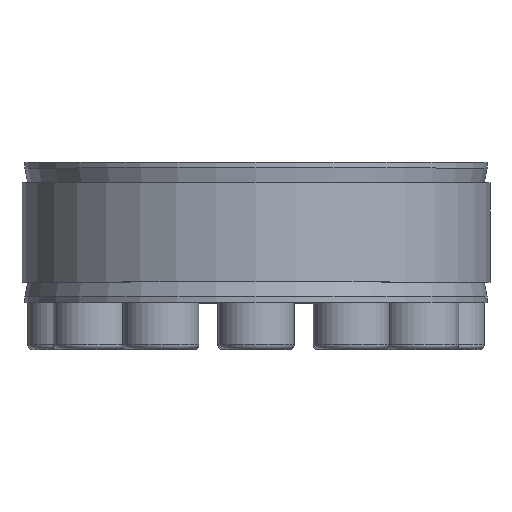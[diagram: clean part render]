
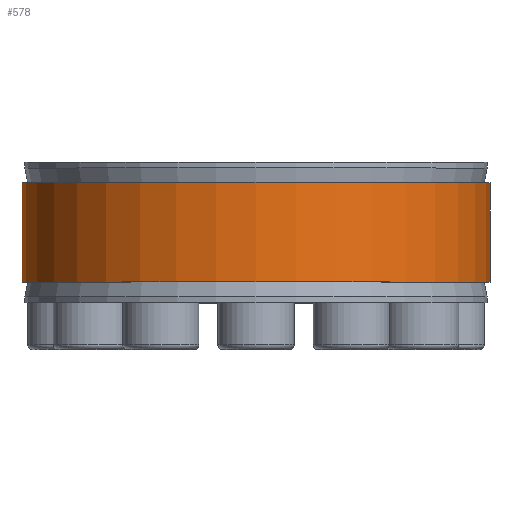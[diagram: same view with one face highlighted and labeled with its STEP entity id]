
A CAD part, top view. The second image highlights one B-rep face of the part: STEP entity #578.
In plain terms, the highlighted cylindrical face has radius 40 mm (diameter 80 mm), a partial arc.
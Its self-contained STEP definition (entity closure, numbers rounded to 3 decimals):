
#578 = ADVANCED_FACE( '', ( #1106 ), #1107, .T. );
#1106 = FACE_OUTER_BOUND( '', #1967, .T. );
#1107 = CYLINDRICAL_SURFACE( '', #1968, 40. );
#1967 = EDGE_LOOP( '', ( #2916, #2917, #2918, #2919 ) );
#1968 = AXIS2_PLACEMENT_3D( '', #2920, #2921, #2922 );
#2916 = ORIENTED_EDGE( '', *, *, #4885, .F. );
#2917 = ORIENTED_EDGE( '', *, *, #4886, .T. );
#2918 = ORIENTED_EDGE( '', *, *, #4887, .T. );
#2919 = ORIENTED_EDGE( '', *, *, #4888, .F. );
#2920 = CARTESIAN_POINT( '', ( 0., -60., 0. ) );
#2921 = DIRECTION( '', ( 0., -1., 0. ) );
#2922 = DIRECTION( '', ( 0., 0., 1. ) );
#4885 = EDGE_CURVE( '', #5464, #5465, #5466, .F. );
#4886 = EDGE_CURVE( '', #5464, #5467, #5468, .T. );
#4887 = EDGE_CURVE( '', #5467, #5469, #5470, .F. );
#4888 = EDGE_CURVE( '', #5465, #5469, #5471, .T. );
#5464 = VERTEX_POINT( '', #6272 );
#5465 = VERTEX_POINT( '', #6273 );
#5466 = LINE( '', #6274, #6275 );
#5467 = VERTEX_POINT( '', #6276 );
#5468 = CIRCLE( '', #6277, 40. );
#5469 = VERTEX_POINT( '', #6278 );
#5470 = LINE( '', #6279, #6280 );
#5471 = CIRCLE( '', #6281, 40. );
#6272 = CARTESIAN_POINT( '', ( 0.667, 8.5, -39.994 ) );
#6273 = CARTESIAN_POINT( '', ( 0.667, -8.5, -39.994 ) );
#6274 = CARTESIAN_POINT( '', ( 0.667, -60., -39.994 ) );
#6275 = VECTOR( '', #7737, 1000. );
#6276 = CARTESIAN_POINT( '', ( -0.667, 8.5, -39.994 ) );
#6277 = AXIS2_PLACEMENT_3D( '', #7738, #7739, #7740 );
#6278 = CARTESIAN_POINT( '', ( -0.667, -8.5, -39.994 ) );
#6279 = CARTESIAN_POINT( '', ( -0.667, -60., -39.994 ) );
#6280 = VECTOR( '', #7741, 1000. );
#6281 = AXIS2_PLACEMENT_3D( '', #7742, #7743, #7744 );
#7737 = DIRECTION( '', ( 0., 1., 0. ) );
#7738 = CARTESIAN_POINT( '', ( 0., 8.5, 0. ) );
#7739 = DIRECTION( '', ( 0., -1., 0. ) );
#7740 = DIRECTION( '', ( 0., 0., -1. ) );
#7741 = DIRECTION( '', ( 0., 1., 0. ) );
#7742 = CARTESIAN_POINT( '', ( 0., -8.5, 0. ) );
#7743 = DIRECTION( '', ( 0., -1., 0. ) );
#7744 = DIRECTION( '', ( 0., 0., -1. ) );
